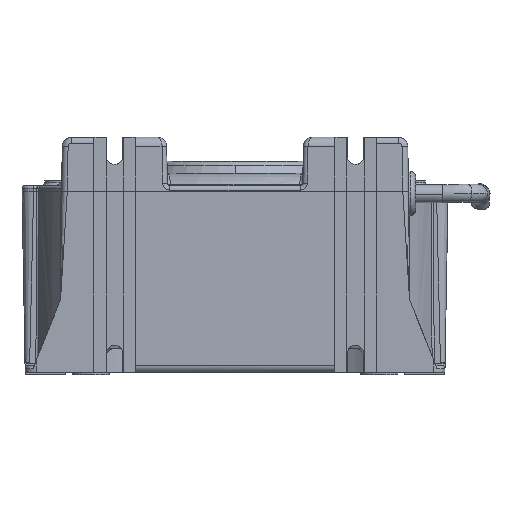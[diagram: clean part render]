
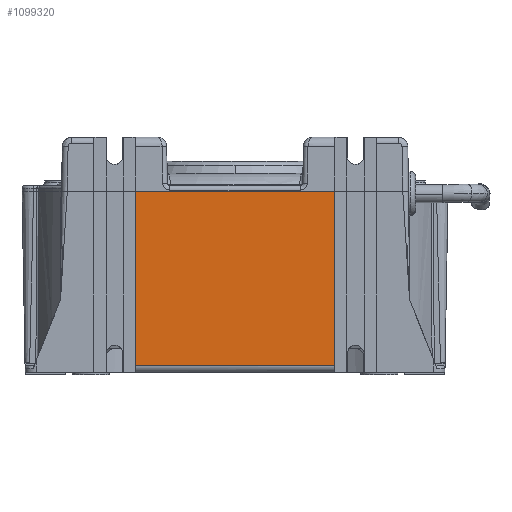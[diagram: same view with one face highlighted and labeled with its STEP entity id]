
A CAD part, front view. The second image highlights one B-rep face of the part: STEP entity #1099320.
In plain terms, the highlighted planar face has unit normal (0, -1, -0.018).
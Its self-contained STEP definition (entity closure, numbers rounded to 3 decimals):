
#858660=CARTESIAN_POINT('',(-192.191,-118.751,
-26.847));
#858670=VERTEX_POINT('',#858660);
#858700=CARTESIAN_POINT('',(-192.191,-118.751,
-26.847));
#858710=DIRECTION('',(-1.,0.,0.));
#858720=VECTOR('',#858710,1.);
#858730=LINE('',#858700,#858720);
#858740=CARTESIAN_POINT('',(-278.209,-118.751,
-26.847));
#858750=VERTEX_POINT('',#858740);
#858760=EDGE_CURVE('',#858670,#858750,#858730,.T.);
#1094460=CARTESIAN_POINT('',(-278.209,-117.443,
-101.776));
#1094470=VERTEX_POINT('',#1094460);
#1094500=CARTESIAN_POINT('',(-192.191,-117.443,
-101.776));
#1094510=DIRECTION('',(-1.,0.,0.));
#1094520=VECTOR('',#1094510,1.);
#1094530=LINE('',#1094500,#1094520);
#1094540=CARTESIAN_POINT('',(-192.191,-117.443,
-101.776));
#1094550=VERTEX_POINT('',#1094540);
#1094560=EDGE_CURVE('',#1094550,#1094470,#1094530,.T.);
#1099000=CARTESIAN_POINT('',(-192.191,-118.751,
-26.847));
#1099010=DIRECTION('',(0.,0.017,-1.));
#1099020=VECTOR('',#1099010,1.);
#1099030=LINE('',#1099000,#1099020);
#1099040=EDGE_CURVE('',#858670,#1094550,#1099030,.T.);
#1099160=CARTESIAN_POINT('',(-157.5,-117.321,-108.751)
);
#1099170=DIRECTION('',(0.,1.,0.017));
#1099180=DIRECTION('',(0.,-0.017,1.));
#1099190=AXIS2_PLACEMENT_3D('',#1099160,#1099170,#1099180);
#1099200=PLANE('',#1099190);
#1099210=ORIENTED_EDGE('',*,*,#1094560,.F.);
#1099220=CARTESIAN_POINT('',(-278.209,-117.443,
-101.776));
#1099230=DIRECTION('',(0.,-0.017,1.));
#1099240=VECTOR('',#1099230,1.);
#1099250=LINE('',#1099220,#1099240);
#1099260=EDGE_CURVE('',#1094470,#858750,#1099250,.T.);
#1099270=ORIENTED_EDGE('',*,*,#1099260,.F.);
#1099280=ORIENTED_EDGE('',*,*,#858760,.T.);
#1099290=ORIENTED_EDGE('',*,*,#1099040,.F.);
#1099300=EDGE_LOOP('',(#1099290,#1099280,#1099270,#1099210));
#1099310=FACE_OUTER_BOUND('',#1099300,.T.);
#1099320=ADVANCED_FACE('',(#1099310),#1099200,.F.);
